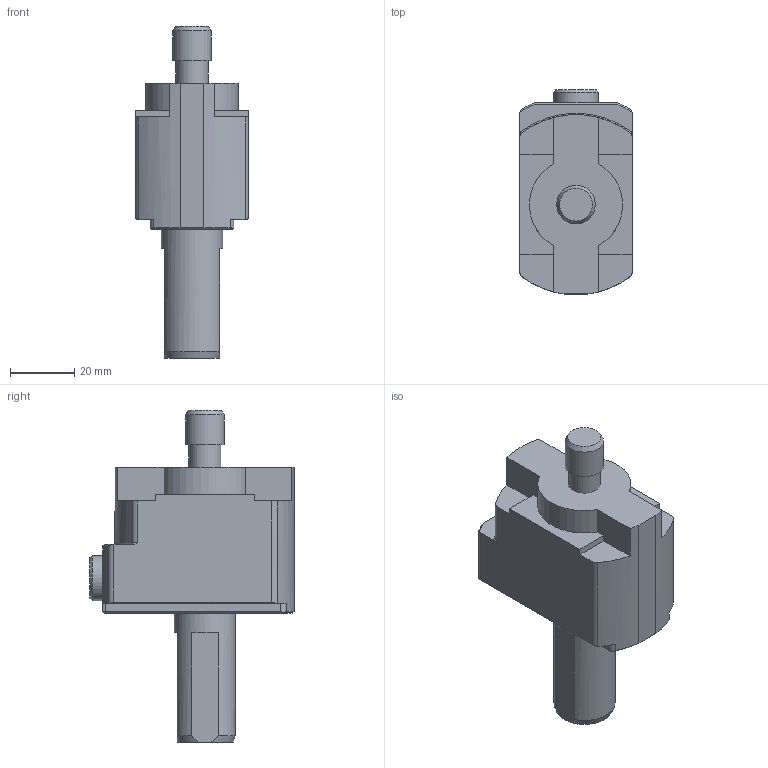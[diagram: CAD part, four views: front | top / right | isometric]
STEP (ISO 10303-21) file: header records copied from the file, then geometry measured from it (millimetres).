
FILE_DESCRIPTION (( 'STEP AP214' ), '1' );
FILE_NAME ('97-000-190 - light.STEP', '2024-11-14T14:10:25', ( 'pc' ), ( '' ), 'SwSTEP 2.0', 'SolidWorks 2024', '' );
FILE_SCHEMA (( 'AUTOMOTIVE_DESIGN' ));
Length unit declared in the file: millimetre
Products named in the file (1): 97-000-190 - light
Bounding box: 35 x 63.5 x 103.3 mm (x, y, z)
Volume: 91082.8 mm3; surface area: 15000.1 mm2
Topology: 1 solids, 1 shells, 83 faces, 212 edges, 137 vertices
Faces by surface type: plane 44, cylinder 23, cone 13, torus 3
Full cylindrical faces by diameter (mm): 10 x1, 12 x1, 14 x2, 15 x1, 19.05 x1
Entity records: 2582 total; most frequent: CARTESIAN_POINT 607, DIRECTION 405, ORIENTED_EDGE 400, EDGE_CURVE 200, AXIS2_PLACEMENT_3D 153, VERTEX_POINT 135, LINE 99, EDGE_LOOP 99
